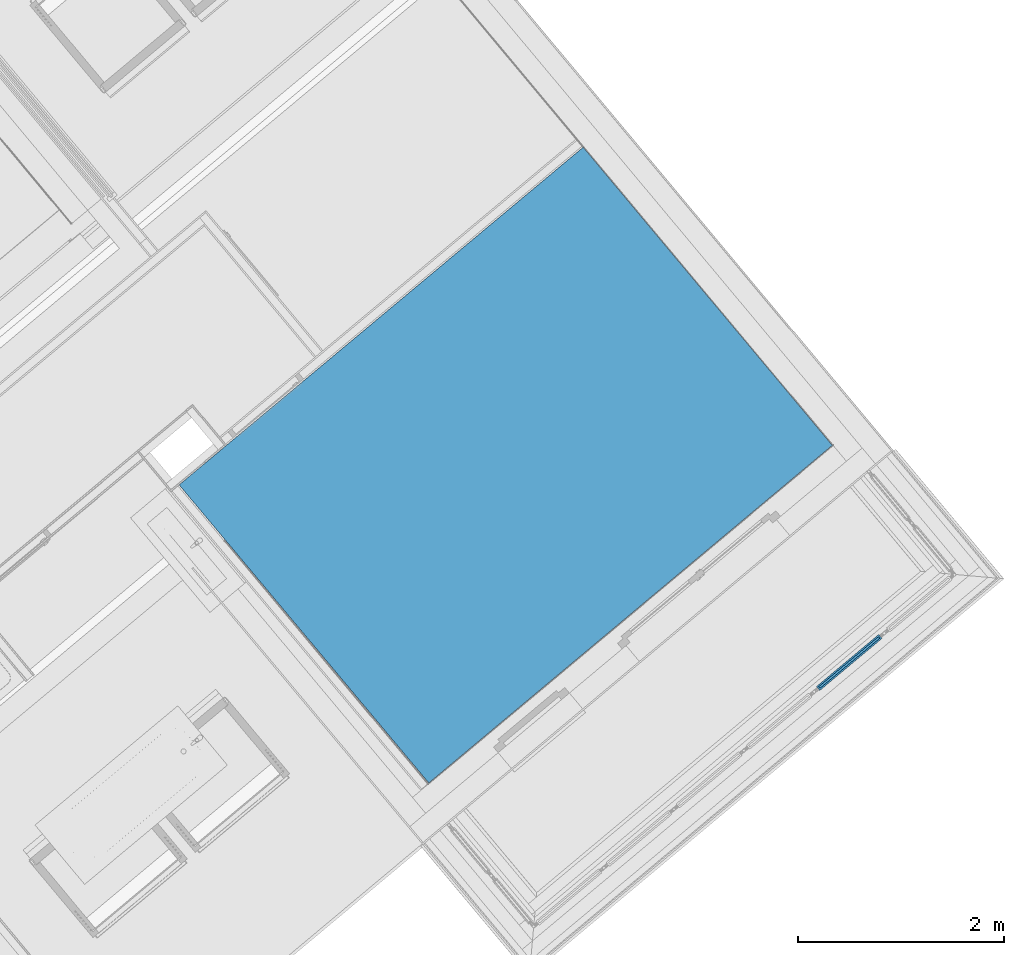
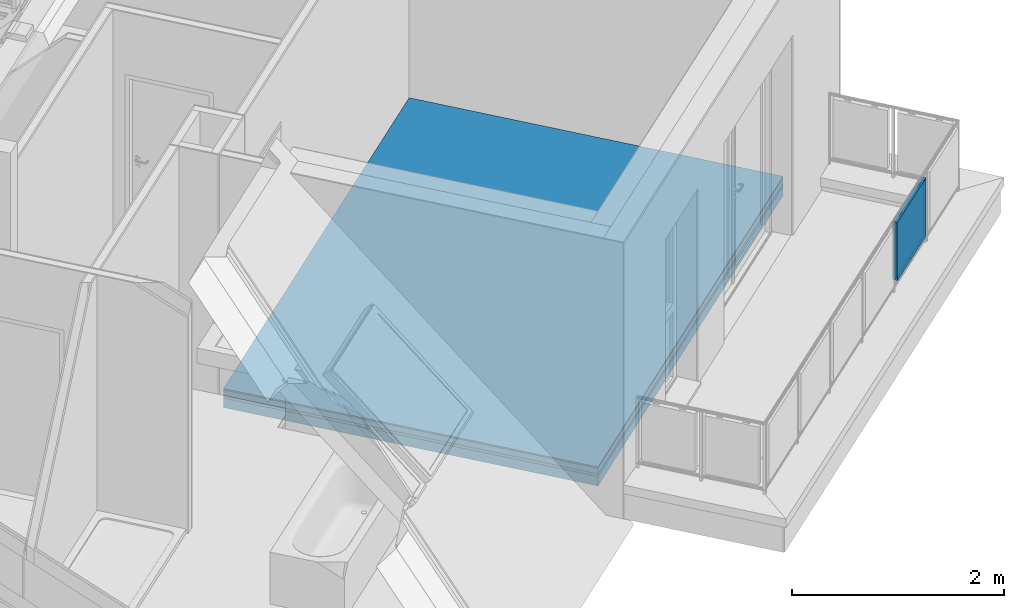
# One storey, part 33 of 47: 6 building element parts, 2 elements without a shape of their own.
"""IFC4 building model written with IfcOpenShell, lengths in metres."""

from ifc_helpers import new_model, entity, si_unit, converted_unit, derived_unit, direction, frame, origin_with_axes, place, context, subcontext, project, spatial, polygons, material, type_object, element, aggregate, save


model = new_model("IFC4")

# Units and contexts
model_context = context("Model", 3, precision=1e-05, world=origin_with_axes(), true_north=direction((0.0, 1.0)))
body_context = subcontext(model_context, "Body", "Model", "MODEL_VIEW")
ifc_project = project(units=[si_unit("LENGTHUNIT", "METRE"), si_unit("AREAUNIT", "SQUARE_METRE"), si_unit("VOLUMEUNIT", "CUBIC_METRE"), converted_unit("PLANEANGLEUNIT", "DEGREE", entity("IfcPlaneAngleMeasure", 0.0174532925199), si_unit("PLANEANGLEUNIT", "RADIAN"), dimensions=[0, 0, 0, 0, 0, 0, 0]), converted_unit("TIMEUNIT", "Year", entity("IfcTimeMeasure", 31556926.0), si_unit("TIMEUNIT", "SECOND"), dimensions=[0, 0, 1, 0, 0, 0, 0]), si_unit("MASSUNIT", "GRAM", prefix="KILO"), si_unit("THERMODYNAMICTEMPERATUREUNIT", "DEGREE_CELSIUS"), si_unit("LUMINOUSINTENSITYUNIT", "LUMEN"), si_unit("ENERGYUNIT", "JOULE", prefix="MEGA"), derived_unit("THERMALCONDUCTANCEUNIT", [(si_unit("POWERUNIT", "WATT"), 1), (si_unit("LENGTHUNIT", "METRE"), -1), (si_unit("THERMODYNAMICTEMPERATUREUNIT", "KELVIN"), -1)]), derived_unit("SPECIFICHEATCAPACITYUNIT", [(si_unit("ENERGYUNIT", "JOULE"), 1), (si_unit("MASSUNIT", "GRAM", prefix="KILO"), -1), (si_unit("THERMODYNAMICTEMPERATUREUNIT", "KELVIN"), -1)]), derived_unit("MASSDENSITYUNIT", [(si_unit("MASSUNIT", "GRAM", prefix="KILO"), 1), (si_unit("VOLUMEUNIT", "CUBIC_METRE"), -1)])], contexts=[model_context])

# Site, building, storey
site_placement = place(None, frame((-0.00153261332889, -0.00661245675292, 0.0), z_axis=(0.0, 0.0, 1.0), x_axis=(1.0, 0.0, 0.0)))
site = spatial("IfcSite", under=ifc_project, at=site_placement, Name="Site", CompositionType="ELEMENT")
building_placement = place(site_placement, origin_with_axes())
building = spatial("IfcBuilding", under=site, at=building_placement, Name="Building", CompositionType="ELEMENT")
storey_placement = place(building_placement, frame((0.0, 0.0, 8.66), z_axis=(0.0, 0.0, 1.0), x_axis=(1.0, 0.0, 0.0)))
storey = spatial("IfcBuildingStorey", under=building, at=storey_placement, Name="DG2", CompositionType="ELEMENT", Elevation=8.66)

# Covering, building element parts
covering_type = type_object("IfcCoveringType", Name="DE 01 Decke Wohnung/Wohnung Parkett 220", PredefinedType="NOTDEFINED")
covering_placement = place(storey_placement, frame((5.44449478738, 21.1853017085, 0.22), z_axis=(0.0, 0.0, 1.0), x_axis=(1.0, 0.0, 0.0)))
covering = element("IfcCovering", 1, at=covering_placement, inside=storey, type_object=covering_type, Name="Decke-009", PredefinedType="NOTDEFINED")
ifc_material_1 = material(Name="Parkett")
building_element_part_1_placement = place(covering_placement, origin_with_axes())
building_element_part_1 = element("IfcBuildingElementPart", 2, at=building_element_part_1_placement, material=ifc_material_1, Name="Parkett", PredefinedType="NOTDEFINED", context=body_context, shape_type="Tessellation", body=[
    polygons([(0.0, 0.0, -0.015), (2.41913475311, -2.8883484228, -0.015), (2.41913475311, -2.8883484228, 0.0), (0.0, 0.0, 0.0), (3.91495482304, 3.27132918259, -0.015), (6.32864221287, 0.382754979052, -0.015), (6.32864221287, 0.382754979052, 0.0), (3.91495482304, 3.27132918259, 0.0)], [[[1, 2, 3, 4]], [[2, 1, 5, 6]], [[2, 6, 7, 3]], [[8, 4, 3, 7]], [[5, 1, 4, 8]], [[6, 5, 8, 7]]], closed=True),
])
ifc_material_2 = material(Name="Estrich")
building_element_part_2_placement = place(covering_placement, origin_with_axes())
building_element_part_2 = element("IfcBuildingElementPart", 3, at=building_element_part_2_placement, material=ifc_material_2, Name="Estrich", PredefinedType="NOTDEFINED", context=body_context, shape_type="Tessellation", body=[
    polygons([(0.0, 0.0, -0.08), (2.41913475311, -2.8883484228, -0.08), (2.41913475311, -2.8883484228, -0.015), (0.0, 0.0, -0.015), (3.91495482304, 3.27132918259, -0.08), (6.32864221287, 0.382754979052, -0.08), (6.32864221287, 0.382754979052, -0.015), (3.91495482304, 3.27132918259, -0.015)], [[[1, 2, 3, 4]], [[2, 1, 5, 6]], [[2, 6, 7, 3]], [[8, 4, 3, 7]], [[5, 1, 4, 8]], [[6, 5, 8, 7]]], closed=True),
])
ifc_material_3 = material(Name="Trittschalldämmung")
building_element_part_3_placement = place(covering_placement, origin_with_axes())
building_element_part_3 = element("IfcBuildingElementPart", 4, at=building_element_part_3_placement, material=ifc_material_3, Name="Trittschalldämmung", PredefinedType="NOTDEFINED", context=body_context, shape_type="Tessellation", body=[
    polygons([(0.0, 0.0, -0.11), (2.41913475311, -2.8883484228, -0.11), (2.41913475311, -2.8883484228, -0.08), (0.0, 0.0, -0.08), (3.91495482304, 3.27132918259, -0.11), (6.32864221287, 0.382754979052, -0.11), (6.32864221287, 0.382754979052, -0.08), (3.91495482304, 3.27132918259, -0.08)], [[[1, 2, 3, 4]], [[2, 1, 5, 6]], [[2, 6, 7, 3]], [[8, 4, 3, 7]], [[5, 1, 4, 8]], [[6, 5, 8, 7]]], closed=True),
])
ifc_material_4 = material(Name="Schüttung")
building_element_part_4_placement = place(covering_placement, origin_with_axes())
building_element_part_4 = element("IfcBuildingElementPart", 5, at=building_element_part_4_placement, material=ifc_material_4, Name="Schüttung", PredefinedType="NOTDEFINED", context=body_context, shape_type="Tessellation", body=[
    polygons([(0.0, 0.0, -0.11), (0.0, 0.0, -0.22), (2.41913475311, -2.8883484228, -0.22), (2.41913475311, -2.8883484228, -0.11), (3.91495482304, 3.27132918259, -0.11), (3.91495482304, 3.27132918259, -0.22), (6.32864221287, 0.382754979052, -0.22), (6.32864221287, 0.382754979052, -0.11)], [[[1, 2, 3, 4]], [[5, 6, 2, 1]], [[3, 2, 6, 7]], [[4, 3, 7, 8]], [[5, 1, 4, 8]], [[8, 7, 6, 5]]], closed=True),
])
aggregate(covering, [building_element_part_1, building_element_part_2, building_element_part_3, building_element_part_4])

# Railing, building element parts
railing_type = type_object("IfcRailingType", Name="Geländerart", PredefinedType="NOTDEFINED")
railing_placement = place(storey_placement, frame((8.09801261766, 17.9211539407, 0.38), z_axis=(0.0, 0.0, 1.0), x_axis=(1.0, 0.0, 0.0)))
railing = element("IfcRailing", 6, at=railing_placement, inside=storey, type_object=railing_type, Name="Geländer - 001", PredefinedType="NOTDEFINED")
ifc_material_5 = material(Name="Profilit")
building_element_part_5_placement = place(railing_placement, origin_with_axes())
building_element_part_5 = element("IfcBuildingElementPart", 7, at=building_element_part_5_placement, material=ifc_material_5, Name="Profilit", PredefinedType="NOTDEFINED", context=body_context, shape_type="Tessellation", body=[
    polygons([(4.12099781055, 1.79363218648, 0.135), (3.54166611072, 1.30899080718, 0.135), (3.54166611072, 1.30899080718, 0.775), (4.12099781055, 1.79363218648, 0.775), (3.55449891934, 1.29365069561, 0.135), (4.13383061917, 1.77829207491, 0.135), (3.55449891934, 1.29365069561, 0.775), (4.13383061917, 1.77829207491, 0.775)], [[[1, 2, 3, 4]], [[5, 2, 1, 6]], [[7, 3, 2, 5]], [[4, 3, 7, 8]], [[1, 4, 8, 6]], [[7, 5, 6, 8]]], closed=True),
])
ifc_material_6 = material(Name="Aluminium")
building_element_part_6_placement = place(railing_placement, origin_with_axes())
building_element_part_6 = element("IfcBuildingElementPart", 8, at=building_element_part_6_placement, material=ifc_material_6, Name="Aluminium", PredefinedType="NOTDEFINED", context=body_context, shape_type="Tessellation", body=[
    polygons([(3.61167388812, 1.35777770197, 0.12), (3.66536427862, 1.40269253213, 0.12), (3.66536427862, 1.40269253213, 0.095), (3.61167388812, 1.35777770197, 0.095), (3.61488209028, 1.35394267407, 0.12), (3.66857248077, 1.39885750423, 0.12), (3.66857248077, 1.39885750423, 0.095), (3.61488209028, 1.35394267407, 0.095)], [[[1, 2, 3, 4]], [[5, 6, 2, 1]], [[2, 6, 7, 3]], [[4, 3, 7, 8]], [[1, 4, 8, 5]], [[8, 7, 6, 5]]], closed=True),
    polygons([(4.00692424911, 1.68842537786, 0.12), (4.06061463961, 1.73334020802, 0.12), (4.06061463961, 1.73334020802, 0.095), (4.00692424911, 1.68842537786, 0.095), (4.01013245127, 1.68459034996, 0.12), (4.06382284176, 1.72950518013, 0.12), (4.06382284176, 1.72950518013, 0.095), (4.01013245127, 1.68459034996, 0.095)], [[[1, 2, 3, 4]], [[5, 6, 2, 1]], [[2, 6, 7, 3]], [[4, 3, 7, 8]], [[1, 4, 8, 5]], [[8, 7, 6, 5]]], closed=True),
    polygons([(4.06061463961, 1.73334020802, 0.79), (4.00692424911, 1.68842537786, 0.79), (4.00692424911, 1.68842537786, 0.795), (4.06061463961, 1.73334020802, 0.795), (4.06382284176, 1.72950518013, 0.79), (4.01013245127, 1.68459034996, 0.79), (4.01013245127, 1.68459034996, 0.795), (4.06382284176, 1.72950518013, 0.795)], [[[1, 2, 3, 4]], [[5, 6, 2, 1]], [[2, 6, 7, 3]], [[4, 3, 7, 8]], [[1, 4, 8, 5]], [[8, 7, 6, 5]]], closed=True),
    polygons([(3.66536427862, 1.40269253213, 0.79), (3.61167388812, 1.35777770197, 0.79), (3.61167388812, 1.35777770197, 0.795), (3.66536427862, 1.40269253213, 0.795), (3.66857248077, 1.39885750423, 0.79), (3.61488209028, 1.35394267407, 0.79), (3.61488209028, 1.35394267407, 0.795), (3.66857248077, 1.39885750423, 0.795)], [[[1, 2, 3, 4]], [[5, 6, 2, 1]], [[2, 6, 7, 3]], [[4, 3, 7, 8]], [[1, 4, 8, 5]], [[8, 7, 6, 5]]], closed=True),
    polygons([(3.55261844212, 1.27252100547, 0.12), (3.52053642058, 1.31087128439, 0.12), (4.12287828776, 1.81476187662, 0.12), (4.15496030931, 1.7764115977, 0.12), (3.56795855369, 1.28535381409, 0.14), (3.55833394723, 1.29685889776, 0.14), (3.55449891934, 1.29365069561, 0.135), (3.54166611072, 1.30899080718, 0.135), (3.54550113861, 1.31219900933, 0.14), (3.53587653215, 1.32370409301, 0.14), (4.10753817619, 1.801929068, 0.14), (4.10753817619, 1.801929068, 0.77), (3.53587653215, 1.32370409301, 0.77), (3.53587653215, 1.32370409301, 0.14), (3.52053642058, 1.31087128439, 0.12), (3.52053642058, 1.31087128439, 0.79), (4.12287828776, 1.81476187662, 0.79), (4.15496030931, 1.7764115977, 0.79), (3.55261844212, 1.27252100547, 0.79), (3.55261844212, 1.27252100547, 0.12), (3.56795855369, 1.28535381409, 0.14), (3.56795855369, 1.28535381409, 0.77), (4.13962019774, 1.76357878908, 0.77), (4.13962019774, 1.76357878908, 0.14), (4.12999559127, 1.77508387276, 0.14), (4.12999559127, 1.77508387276, 0.77), (3.55833394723, 1.29685889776, 0.77), (3.55833394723, 1.29685889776, 0.14), (3.55449891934, 1.29365069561, 0.135), (3.55449891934, 1.29365069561, 0.775), (4.13383061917, 1.77829207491, 0.775), (4.13383061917, 1.77829207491, 0.135), (4.12099781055, 1.79363218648, 0.135), (4.12099781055, 1.79363218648, 0.775), (3.54166611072, 1.30899080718, 0.775), (3.54166611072, 1.30899080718, 0.135), (3.54550113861, 1.31219900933, 0.14), (3.54550113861, 1.31219900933, 0.77), (4.11716278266, 1.79042398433, 0.77), (4.11716278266, 1.79042398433, 0.14)], [[[1, 2, 3, 4]], [[1, 5, 6, 7, 8, 9, 10, 2]], [[2, 10, 11, 12, 13, 14, 15, 16, 17, 3]], [[4, 3, 17, 18]], [[5, 1, 4, 18, 19, 20, 21, 22, 23, 24]], [[6, 5, 24, 25]], [[7, 6, 25, 26, 27, 28, 29, 30, 31, 32]], [[8, 7, 32, 33]], [[9, 8, 33, 34, 35, 36, 37, 38, 39, 40]], [[10, 9, 40, 11]], [[11, 40, 39, 12]], [[12, 39, 38, 13]], [[13, 38, 37, 14]], [[20, 15, 14, 37, 36, 29, 28, 21]], [[19, 16, 15, 20]], [[18, 17, 16, 19]], [[27, 22, 21, 28]], [[26, 23, 22, 27]], [[25, 24, 23, 26]], [[35, 30, 29, 36]], [[34, 31, 30, 35]], [[33, 32, 31, 34]]], closed=True),
])
aggregate(railing, [building_element_part_5, building_element_part_6])

save(model, "model.ifc")
